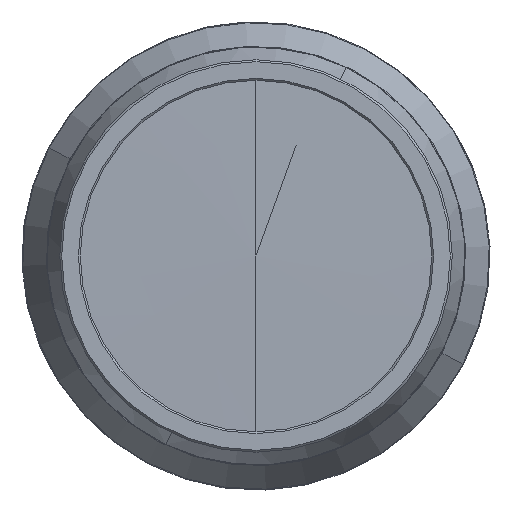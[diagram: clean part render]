
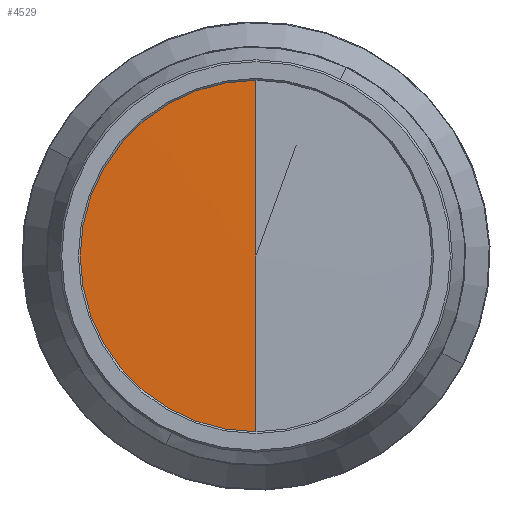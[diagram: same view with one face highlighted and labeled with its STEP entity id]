
A CAD part, left-side view. The second image highlights one B-rep face of the part: STEP entity #4529.
In plain terms, the highlighted conical face has half-angle 89.409 degrees and reference radius 29.061 mm.
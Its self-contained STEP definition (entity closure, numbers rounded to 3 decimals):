
#7 = DIRECTION ( 'NONE',  ( 1., 0., 0. ) ) ;
#200 = VERTEX_POINT ( 'NONE', #201 ) ;
#201 = CARTESIAN_POINT ( 'NONE',  ( 0., 0., 0. ) ) ;
#601 = CARTESIAN_POINT ( 'NONE',  ( 0.3, 0., 29.061 ) ) ;
#775 = DIRECTION ( 'NONE',  ( 0., 0., -1. ) ) ;
#976 = EDGE_CURVE ( 'NONE', #2483, #996, #4490, .T. ) ;
#996 = VERTEX_POINT ( 'NONE', #1534 ) ;
#1129 = CARTESIAN_POINT ( 'NONE',  ( 0.3, 0., 0. ) ) ;
#1517 = VECTOR ( 'NONE', #2360, 1000. ) ;
#1534 = CARTESIAN_POINT ( 'NONE',  ( 0.287, 0., 27.763 ) ) ;
#1697 = LINE ( 'NONE', #3067, #1517 ) ;
#2148 = DIRECTION ( 'NONE',  ( 0.01, 0., 1. ) ) ;
#2315 = FACE_OUTER_BOUND ( 'NONE', #3815, .T. ) ;
#2360 = DIRECTION ( 'NONE',  ( 0.01, 0., -1. ) ) ;
#2483 = VERTEX_POINT ( 'NONE', #4673 ) ;
#2550 = ORIENTED_EDGE ( 'NONE', *, *, #976, .F. ) ;
#3033 = EDGE_CURVE ( 'NONE', #200, #996, #4629, .T. ) ;
#3039 = ORIENTED_EDGE ( 'NONE', *, *, #3033, .T. ) ;
#3067 = CARTESIAN_POINT ( 'NONE',  ( 0.3, 0., -29.061 ) ) ;
#3764 = DIRECTION ( 'NONE',  ( 0., 0., -1. ) ) ;
#3815 = EDGE_LOOP ( 'NONE', ( #3911, #3039, #2550 ) ) ;
#3911 = ORIENTED_EDGE ( 'NONE', *, *, #4077, .F. ) ;
#4077 = EDGE_CURVE ( 'NONE', #200, #2483, #1697, .T. ) ;
#4354 = CONICAL_SURFACE ( 'NONE', #4564, 29.061, 1.56 ) ;
#4408 = AXIS2_PLACEMENT_3D ( 'NONE', #4589, #4901, #775 ) ;
#4490 = CIRCLE ( 'NONE', #4408, 27.763 ) ;
#4529 = ADVANCED_FACE ( 'NONE', ( #2315 ), #4354, .T. ) ;
#4564 = AXIS2_PLACEMENT_3D ( 'NONE', #1129, #7, #3764 ) ;
#4589 = CARTESIAN_POINT ( 'NONE',  ( 0.287, 0., 0. ) ) ;
#4629 = LINE ( 'NONE', #601, #4803 ) ;
#4673 = CARTESIAN_POINT ( 'NONE',  ( 0.287, 0., -27.763 ) ) ;
#4803 = VECTOR ( 'NONE', #2148, 1000. ) ;
#4901 = DIRECTION ( 'NONE',  ( 1., 0., 0. ) ) ;
